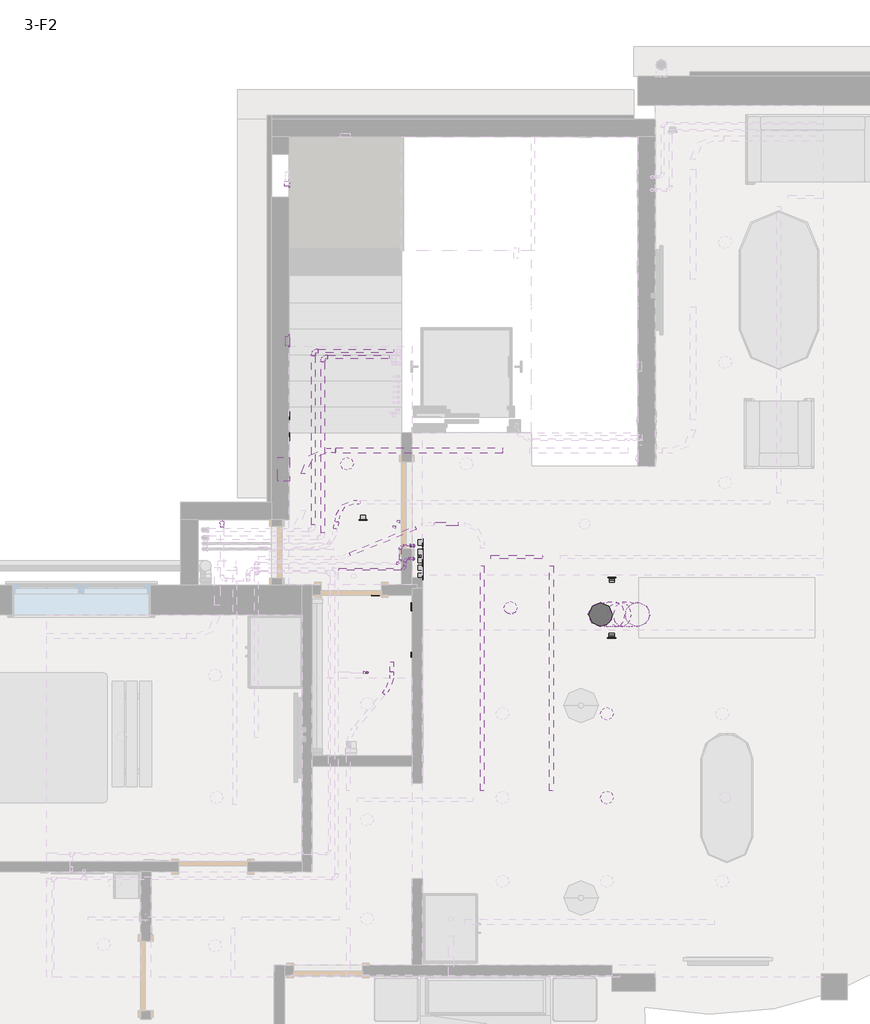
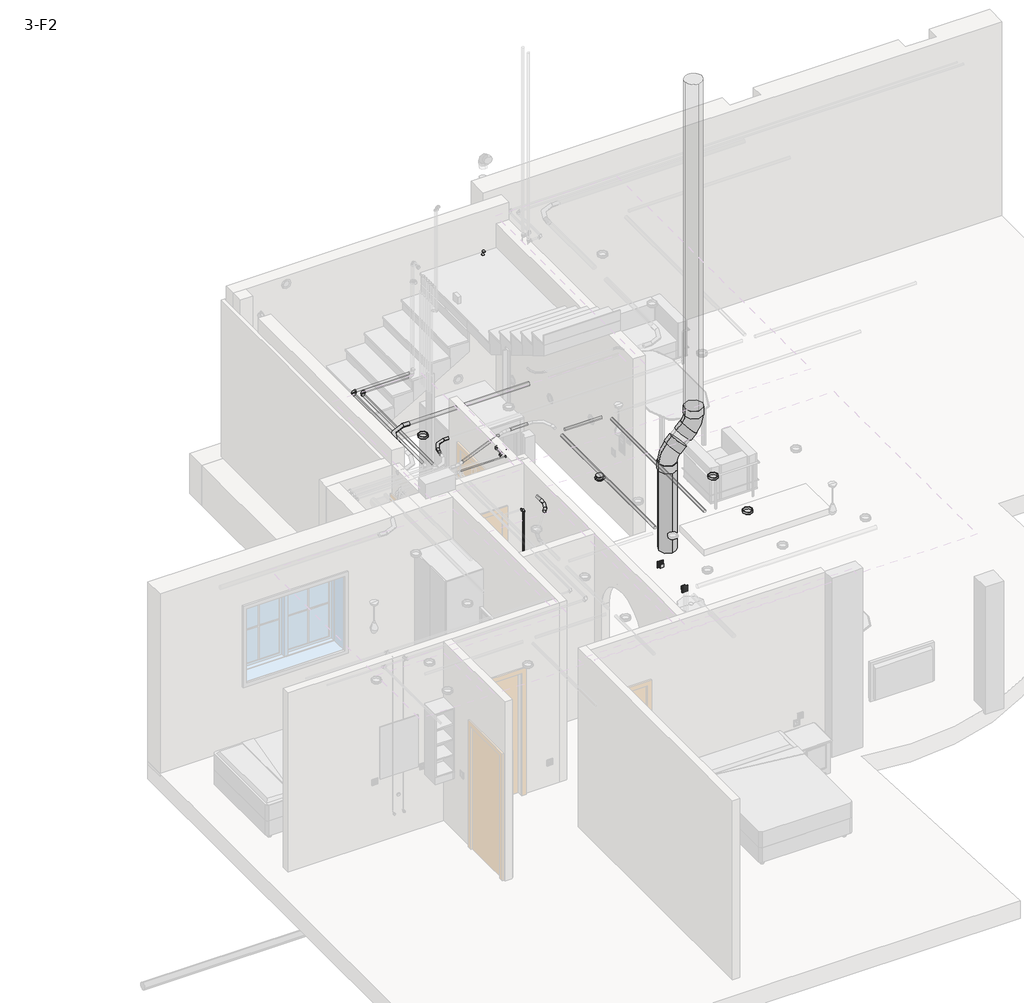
# One storey, part 9 of 12: 18 pipe fittings, 16 pipe segments, 8 cable carrier segments, 8 proxies, 8 switching devices, 5 light fixtures, 3 cable carrier fittings.
"""IFC4 building model written with IfcOpenShell, lengths in millimetres."""

from ifc_helpers import new_model, si_unit, point, frame, frame_2d, origin, place, context, project, spatial, circle_curve, trimmed, segment, composite_curve, outline, extrude, transform, mapped, element, save
from components import distribution_board_24m_2_rows_275x370x140_6ba21ac3, wall_mounted_socket_ups_wall_mounted_socket_ups_4524048d, m_conduit_elbow_aluminum_standard_8a5b7878, m_conduit_elbow_aluminum_standard_c7115e71, m_conduit_elbow_without_fittings_emt_standard_11a9927b, m_downlight_recessed_can_152mm_incandescent_120v_1ee42939, m_recessed_lamp_round_led_e6f06c98, m_bend_pvc_sch_40_dwv_standard_48d77e49, m_bend_pvc_sch_40_dwv_standard_b2b7a502, m_bend_pvc_sch_40_dwv_standard_738aab8b, m_bend_pvc_sch_40_dwv_standard_42e46e6b, m_bend_pvc_sch_40_dwv_standard_88f2c54c, m_elbow_welded_generic_standard_c3fc6815, m_tee_reducing_sanitary_pvc_sch_40_dwv_standard_12be355b, switching_device_8f59fbb7, switching_device_ab05ab5c

model = new_model("IFC4")

# Units and contexts
model_context = context("Model", 3, world=origin())
ifc_project = project(units=[si_unit("LENGTHUNIT", "METRE", prefix="MILLI")], contexts=[model_context])

# Site, building, storey
site = spatial("IfcSite", under=ifc_project)
building = spatial("IfcBuilding", under=site)
storey = spatial("IfcBuildingStorey", under=building, Name="3-F2", Elevation=6550.0)

# Proxies
placement = place(None, origin())
distribution_board_24m_2_rows_275x370x140_shape = distribution_board_24m_2_rows_275x370x140_6ba21ac3(model_context)
element("IfcBuildingElementProxy", 1, Name="Distribution Board : 24M 2 rows 275x370x140", ObjectType="Distribution Board : 24M 2 rows 275x370x140", at=placement, inside=storey, context=model_context, shape_type="MappedRepresentation", body=[
    mapped(distribution_board_24m_2_rows_275x370x140_shape, transform((-4987.4765921, 4664.4560655, 7750.0), x_axis=(0.0, 1.0, 0.0), y_axis=(-1.0, 0.0, 0.0), z_axis=(0.0, 0.0, 1.0))),
])
wall_mounted_socket_ups_wall_mounted_socket_ups_shape = wall_mounted_socket_ups_wall_mounted_socket_ups_4524048d(model_context)
element("IfcBuildingElementProxy", 2, Name="WALL MOUNTED SOCKET : WALL MOUNTED SOCKET", ObjectType="WALL MOUNTED SOCKET : WALL MOUNTED SOCKET", at=placement, inside=storey, context=model_context, shape_type="MappedRepresentation", body=[
    mapped(wall_mounted_socket_ups_wall_mounted_socket_ups_shape, transform((-3317.6151583, 3684.4560655, 7000.0), x_axis=(0.0, 1.0, 0.0), y_axis=(0.0, 0.0, 1.0), z_axis=(1.0, 0.0, 0.0))),
])
element("IfcBuildingElementProxy", 3, Name="WALL MOUNTED SOCKET UPS : WALL MOUNTED SOCKET UPS", ObjectType="WALL MOUNTED SOCKET UPS : WALL MOUNTED SOCKET UPS", at=placement, inside=storey, context=model_context, shape_type="MappedRepresentation", body=[
    mapped(wall_mounted_socket_ups_wall_mounted_socket_ups_shape, transform((-3437.6151583, 3077.6176449, 7700.0), x_axis=(0.0, -1.0, 0.0), y_axis=(0.0, 0.0, 1.0), z_axis=(-1.0, 0.0, 0.0))),
])
element("IfcBuildingElementProxy", 4, Name="WALL MOUNTED SOCKET UPS : WALL MOUNTED SOCKET UPS", ObjectType="WALL MOUNTED SOCKET UPS : WALL MOUNTED SOCKET UPS", at=placement, inside=storey, context=model_context, shape_type="MappedRepresentation", body=[
    mapped(wall_mounted_socket_ups_wall_mounted_socket_ups_shape, transform((-4857.4765921, 5039.4560655, 7000.0), x_axis=(0.0, 1.0, 0.0), y_axis=(0.0, 0.0, 1.0), z_axis=(1.0, 0.0, 0.0))),
])
element("IfcBuildingElementProxy", 5, Name="WALL MOUNTED SOCKET UPS : WALL MOUNTED SOCKET UPS", ObjectType="WALL MOUNTED SOCKET UPS : WALL MOUNTED SOCKET UPS", at=placement, inside=storey, context=model_context, shape_type="MappedRepresentation", body=[
    mapped(wall_mounted_socket_ups_wall_mounted_socket_ups_shape, transform((-1132.1841727, 2722.6176449, 7000.0), x_axis=(1.0, 0.0, 0.0), y_axis=(0.0, 0.0, 1.0), z_axis=(0.0, -1.0, 0.0))),
])
element("IfcBuildingElementProxy", 6, Name="WALL MOUNTED SOCKET UPS : WALL MOUNTED SOCKET UPS", ObjectType="WALL MOUNTED SOCKET UPS : WALL MOUNTED SOCKET UPS", at=placement, inside=storey, context=model_context, shape_type="MappedRepresentation", body=[
    mapped(wall_mounted_socket_ups_wall_mounted_socket_ups_shape, transform((-4857.4765921, 7958.4872449, 8461.5263158), x_axis=(0.0, 1.0, 0.0), y_axis=(0.0, 0.0, 1.0), z_axis=(1.0, 0.0, 0.0))),
])
element("IfcBuildingElementProxy", 7, Name="WALL MOUNTED SOCKET UPS : WALL MOUNTED SOCKET UPS", ObjectType="WALL MOUNTED SOCKET UPS : WALL MOUNTED SOCKET UPS", at=placement, inside=storey, context=model_context, shape_type="MappedRepresentation", body=[
    mapped(wall_mounted_socket_ups_wall_mounted_socket_ups_shape, transform((-1127.4765921, 3412.6176449, 7000.0), x_axis=(-1.0, 0.0, 0.0), y_axis=(0.0, 0.0, 1.0), z_axis=(0.0, 1.0, 0.0))),
])
element("IfcBuildingElementProxy", 8, Name="WALL MOUNTED WATERPROOF SOCKET : WALL MOUNTED WATERPROOF SOCKET", ObjectType="WALL MOUNTED WATERPROOF SOCKET : WALL MOUNTED WATERPROOF SOCKET", at=placement, inside=storey, context=model_context, shape_type="MappedRepresentation", body=[
    mapped(wall_mounted_socket_ups_wall_mounted_socket_ups_shape, transform((-5057.4765921, 7234.4560655, 501.0), x_axis=(0.0, -1.0, 0.0), y_axis=(0.0, 0.0, 1.0), z_axis=(-1.0, 0.0, 0.0))),
])

# Cable carrier fittings
m_conduit_elbow_aluminum_standard_shape = m_conduit_elbow_aluminum_standard_8a5b7878(model_context)
element("IfcCableCarrierFitting", 9, ObjectType="M_Conduit Elbow - Aluminum : Standard", at=placement, inside=storey, context=model_context, shape_type="MappedRepresentation", body=[
    mapped(m_conduit_elbow_aluminum_standard_shape, transform((-4263.4845173, 4284.4560655, 9630.825), x_axis=(-1.0, 0.0, 0.0), y_axis=(0.0, -1.0, 0.0), z_axis=(0.0, 0.0, 1.0))),
])
m_conduit_elbow_aluminum_standard_2_shape = m_conduit_elbow_aluminum_standard_c7115e71(model_context)
element("IfcCableCarrierFitting", 10, ObjectType="M_Conduit Elbow - Aluminum : Standard", at=placement, inside=storey, context=model_context, shape_type="MappedRepresentation", body=[
    mapped(m_conduit_elbow_aluminum_standard_2_shape, transform((-3670.1517983, 2185.3514304, 9630.825), x_axis=(0.6427876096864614, 0.7660444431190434, 0.0), y_axis=(-0.7660444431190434, 0.6427876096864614, 0.0), z_axis=(0.0, 0.0, 1.0))),
])
m_conduit_elbow_without_fittings_emt_standard_shape = m_conduit_elbow_without_fittings_emt_standard_11a9927b(model_context)
element("IfcCableCarrierFitting", 11, ObjectType="M_Conduit Elbow - without Fittings - EMT : Standard", at=placement, inside=storey, context=model_context, shape_type="MappedRepresentation", body=[
    mapped(m_conduit_elbow_without_fittings_emt_standard_shape, transform((-4690.7650264, 4880.3, 9620.0306159), x_axis=(-0.999999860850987, 0.0, 0.0005275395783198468), y_axis=(0.0, -1.0, 0.0), z_axis=(0.0005275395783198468, 0.0, 0.999999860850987))),
])

# Cable carrier segments
element("IfcCableCarrierSegment", 12, ObjectType="Power", at=placement, inside=storey, context=model_context, shape_type="SweptSolid", body=[
    extrude(outline(composite_curve([segment(trimmed(circle_curve(frame_2d((0.0, 30.165)), 30.165), [point((-30.165, 30.165))], [point((0.0, 60.33))], False, "CARTESIAN"), True, "CONTINUOUS"), segment(trimmed(circle_curve(frame_2d((0.0, 30.165)), 30.165), [point((0.0, 60.33))], [point((30.165, 30.165))], False, "CARTESIAN"), True, "CONTINUOUS"), segment(trimmed(circle_curve(frame_2d((0.0, 30.165)), 30.165), [point((30.165, 30.165))], [point((0.0, 0.0))], False, "CARTESIAN"), True, "CONTINUOUS"), segment(trimmed(circle_curve(frame_2d((0.0, 30.165)), 30.165), [point((0.0, 0.0))], [point((-30.165, 30.165))], False, "CARTESIAN"), True, "CONTINUOUS")], self_intersect=False)), frame((-2391.4925054, 4880.3, 9588.6526543), z_axis=(-0.999999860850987, 0.0, 0.0005275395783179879), x_axis=(0.0, -1.0, 0.0)), (0.0, 0.0, 1.0), 1928.4887541),
])
element("IfcCableCarrierSegment", 13, ObjectType="Power", at=placement, inside=storey, context=model_context, shape_type="SweptSolid", body=[
    extrude(outline(composite_curve([segment(trimmed(circle_curve(frame_2d((0.0, 21.08)), 21.08), [point((21.0799999, 21.08))], [point((0.0, 0.0))], False, "CARTESIAN"), True, "CONTINUOUS"), segment(trimmed(circle_curve(frame_2d((0.0, 21.08)), 21.08), [point((0.0, 0.0))], [point((-21.08, 21.08))], False, "CARTESIAN"), True, "CONTINUOUS"), segment(trimmed(circle_curve(frame_2d((0.0, 21.08)), 21.08), [point((-21.08, 21.08))], [point((0.0, 42.16))], False, "CARTESIAN"), True, "CONTINUOUS"), segment(trimmed(circle_curve(frame_2d((0.0, 21.08)), 21.08), [point((0.0, 42.16))], [point((21.0799999, 21.08))], False, "CARTESIAN"), True, "CONTINUOUS")], self_intersect=False)), frame((-4320.6413953, 3977.5467099, 9651.905), z_axis=(0.18308582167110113, 0.9830969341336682, -1.489782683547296e-12), x_axis=(0.9830969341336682, -0.18308582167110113, 0.0)), (0.0, 0.0, 1.0), 82.9649859),
])
element("IfcCableCarrierSegment", 14, ObjectType="Power", at=placement, inside=storey, context=model_context, shape_type="SweptSolid", body=[
    extrude(outline(composite_curve([segment(trimmed(circle_curve(frame_2d((0.0, -21.08)), 21.08), [point((-21.08, -21.08))], [point((0.0, 0.0))], False, "CARTESIAN"), True, "CONTINUOUS"), segment(trimmed(circle_curve(frame_2d((0.0, -21.08)), 21.08), [point((0.0, 0.0))], [point((21.08, -21.08))], False, "CARTESIAN"), True, "CONTINUOUS"), segment(trimmed(circle_curve(frame_2d((0.0, -21.08)), 21.08), [point((21.08, -21.08))], [point((0.0, -42.16))], False, "CARTESIAN"), True, "CONTINUOUS"), segment(trimmed(circle_curve(frame_2d((0.0, -21.08)), 21.08), [point((0.0, -42.16))], [point((-21.08, -21.08))], False, "CARTESIAN"), True, "CONTINUOUS")], self_intersect=False)), frame((-4152.4728872, 3684.0856438, 9609.745), z_axis=(0.9271838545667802, 0.37460659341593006, 0.0), x_axis=(0.37460659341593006, -0.9271838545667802, 0.0)), (0.0, 0.0, 1.0), 817.907908),
])
element("IfcCableCarrierSegment", 15, ObjectType="Power", at=placement, inside=storey, context=model_context, shape_type="SweptSolid", body=[
    extrude(outline(composite_curve([segment(trimmed(circle_curve(frame_2d((3654.4560655, 9630.825)), 21.08), [point((3675.5360655, 9630.825))], [point((3654.4560655, 9609.745))], False, "CARTESIAN"), True, "CONTINUOUS"), segment(trimmed(circle_curve(frame_2d((3654.4560655, 9630.825)), 21.08), [point((3654.4560655, 9609.745))], [point((3633.3760655, 9630.825))], False, "CARTESIAN"), True, "CONTINUOUS"), segment(trimmed(circle_curve(frame_2d((3654.4560655, 9630.825)), 21.08), [point((3633.3760655, 9630.825))], [point((3654.4560655, 9651.905))], False, "CARTESIAN"), True, "CONTINUOUS"), segment(trimmed(circle_curve(frame_2d((3654.4560655, 9630.825)), 21.08), [point((3654.4560655, 9651.905))], [point((3675.5360655, 9630.825))], False, "CARTESIAN"), True, "CONTINUOUS")], self_intersect=False)), frame((-2522.4765921, 0.0, 0.0), z_axis=(1.0, 0.0, 0.0), x_axis=(0.0, 1.0, 0.0)), (0.0, 0.0, 1.0), 590.0),
])
element("IfcCableCarrierSegment", 16, ObjectType="Power", at=placement, inside=storey, context=model_context, shape_type="SweptSolid", body=[
    extrude(outline(composite_curve([segment(trimmed(circle_curve(frame_2d((9630.825, -2627.4765921)), 21.08), [point((9630.825, -2648.5565921))], [point((9609.745, -2627.4765921))], False, "CARTESIAN"), True, "CONTINUOUS"), segment(trimmed(circle_curve(frame_2d((9630.825, -2627.4765921)), 21.08), [point((9609.745, -2627.4765921))], [point((9630.825, -2606.3965921))], False, "CARTESIAN"), True, "CONTINUOUS"), segment(trimmed(circle_curve(frame_2d((9630.825, -2627.4765921)), 21.08), [point((9630.825, -2606.3965921))], [point((9651.905, -2627.4765921))], False, "CARTESIAN"), True, "CONTINUOUS"), segment(trimmed(circle_curve(frame_2d((9630.825, -2627.4765921)), 21.08), [point((9651.905, -2627.4765921))], [point((9630.825, -2648.5565921))], False, "CARTESIAN"), True, "CONTINUOUS")], self_intersect=False)), frame((0.0, 957.6176449, 0.0), z_axis=(0.0, 1.0, 0.0), x_axis=(0.0, 0.0, 1.0)), (0.0, 0.0, 1.0), 2591.8384206),
])
element("IfcCableCarrierSegment", 17, ObjectType="Power", at=placement, inside=storey, context=model_context, shape_type="SweptSolid", body=[
    extrude(outline(composite_curve([segment(trimmed(circle_curve(frame_2d((9630.825, -3670.1517983)), 21.08), [point((9630.825, -3691.2317983))], [point((9609.745, -3670.1517983))], False, "CARTESIAN"), True, "CONTINUOUS"), segment(trimmed(circle_curve(frame_2d((9630.825, -3670.1517983)), 21.08), [point((9609.745, -3670.1517983))], [point((9630.825, -3649.0717983))], False, "CARTESIAN"), True, "CONTINUOUS"), segment(trimmed(circle_curve(frame_2d((9630.825, -3670.1517983)), 21.08), [point((9630.825, -3649.0717983))], [point((9651.905, -3670.1517983))], False, "CARTESIAN"), True, "CONTINUOUS"), segment(trimmed(circle_curve(frame_2d((9630.825, -3670.1517983)), 21.08), [point((9651.905, -3670.1517983))], [point((9630.825, -3691.2317983))], False, "CARTESIAN"), True, "CONTINUOUS")], self_intersect=False)), frame((0.0, 2328.5765491, 0.0), z_axis=(0.0, 1.0, 0.0), x_axis=(0.0, 0.0, 1.0)), (0.0, 0.0, 1.0), 114.634469),
])
element("IfcCableCarrierSegment", 18, ObjectType="Power", at=placement, inside=storey, context=model_context, shape_type="SweptSolid", body=[
    extrude(outline(composite_curve([segment(trimmed(circle_curve(frame_2d((9630.825, -1827.4765921)), 21.08), [point((9630.825, -1848.5565921))], [point((9609.745, -1827.4765921))], False, "CARTESIAN"), True, "CONTINUOUS"), segment(trimmed(circle_curve(frame_2d((9630.825, -1827.4765921)), 21.08), [point((9609.745, -1827.4765921))], [point((9630.825, -1806.3965921))], False, "CARTESIAN"), True, "CONTINUOUS"), segment(trimmed(circle_curve(frame_2d((9630.825, -1827.4765921)), 21.08), [point((9630.825, -1806.3965921))], [point((9651.905, -1827.4765921))], False, "CARTESIAN"), True, "CONTINUOUS"), segment(trimmed(circle_curve(frame_2d((9630.825, -1827.4765921)), 21.08), [point((9651.905, -1827.4765921))], [point((9630.825, -1848.5565921))], False, "CARTESIAN"), True, "CONTINUOUS")], self_intersect=False)), frame((0.0, 957.6176449, 0.0), z_axis=(0.0, 1.0, 0.0), x_axis=(0.0, 0.0, 1.0)), (0.0, 0.0, 1.0), 2591.8384206),
])
element("IfcCableCarrierSegment", 19, ObjectType="Power", at=placement, inside=storey, context=model_context, shape_type="SweptSolid", body=[
    extrude(outline(composite_curve([segment(trimmed(circle_curve(frame_2d((0.0, 21.08)), 21.08), [point((-21.08, 21.08))], [point((0.0, 42.16))], False, "CARTESIAN"), True, "CONTINUOUS"), segment(trimmed(circle_curve(frame_2d((0.0, 21.08)), 21.08), [point((0.0, 42.16))], [point((21.08, 21.08))], False, "CARTESIAN"), True, "CONTINUOUS"), segment(trimmed(circle_curve(frame_2d((0.0, 21.08)), 21.08), [point((21.08, 21.08))], [point((0.0, 0.0))], False, "CARTESIAN"), True, "CONTINUOUS"), segment(trimmed(circle_curve(frame_2d((0.0, 21.08)), 21.08), [point((0.0, 0.0))], [point((-21.08, 21.08))], False, "CARTESIAN"), True, "CONTINUOUS")], self_intersect=False)), frame((-2907.0076808, 4031.9117671, 9609.745), z_axis=(-0.9999988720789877, 0.0015019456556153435, 0.0), x_axis=(-0.0015019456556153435, -0.9999988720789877, 0.0)), (0.0, 0.0, 1.0), 271.002794),
])

# Light fixtures
m_downlight_recessed_can_152mm_incandescent_120v_shape = m_downlight_recessed_can_152mm_incandescent_120v_1ee42939(model_context)
element("IfcLightFixture", 20, ObjectType="M_Downlight - Recessed Can : 203mm Incandescent - 277V", at=placement, inside=storey, context=model_context, shape_type="MappedRepresentation", body=[
    mapped(m_downlight_recessed_can_152mm_incandescent_120v_shape, transform((-4187.5458752, 4726.4560655, 6935.4), x_axis=(1.0, 0.0, 0.0), y_axis=(0.0, 1.0, 0.0), z_axis=(0.0, 0.0, 1.0))),
])
element("IfcLightFixture", 21, ObjectType="M_Downlight - Recessed Can : 203mm Incandescent - 277V", at=placement, inside=storey, context=model_context, shape_type="MappedRepresentation", body=[
    mapped(m_downlight_recessed_can_152mm_incandescent_120v_shape, transform((-1186.4601746, 1844.6820281, 6935.4), x_axis=(-1.0, 0.0, 0.0), y_axis=(0.0, -1.0, 0.0), z_axis=(0.0, 0.0, 1.0))),
])
element("IfcLightFixture", 22, ObjectType="M_Downlight - Recessed Can : 203mm Incandescent - 277V", at=placement, inside=storey, context=model_context, shape_type="MappedRepresentation", body=[
    mapped(m_downlight_recessed_can_152mm_incandescent_120v_shape, transform((-1186.4601746, 877.7272222, 6935.4), x_axis=(-1.0, 0.0, 0.0), y_axis=(0.0, -1.0, 0.0), z_axis=(0.0, 0.0, 1.0))),
])
m_recessed_lamp_round_led_shape = m_recessed_lamp_round_led_e6f06c98(model_context)
element("IfcLightFixture", 23, ObjectType="M_Recessed Lamp - Round - LED : 100mm Trimless Downlight", at=placement, inside=storey, context=model_context, shape_type="MappedRepresentation", body=[
    mapped(m_recessed_lamp_round_led_shape, transform((-2298.7765622, 3067.6176449, 9095.9675499), x_axis=(-0.9950666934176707, 0.0, -0.09920824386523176), y_axis=(0.0, 1.0, 0.0), z_axis=(0.09920824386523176, 0.0, -0.9950666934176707))),
])
element("IfcLightFixture", 24, ObjectType="M_Recessed Lamp - Round - LED : 100mm Trimless Downlight", at=placement, inside=storey, context=model_context, shape_type="MappedRepresentation", body=[
    mapped(m_recessed_lamp_round_led_shape, transform((-4857.4765921, 6146.0955313, 9055.2631579), x_axis=(0.0, 1.0, 0.0), y_axis=(0.0, 0.0, 1.0), z_axis=(1.0, 0.0, 0.0))),
])

# Pipe fittings
m_bend_pvc_sch_40_dwv_standard_shape = m_bend_pvc_sch_40_dwv_standard_48d77e49(model_context)
element("IfcPipeFitting", 25, ObjectType="M_Bend - PVC - Sch 40 - DWV : Standard", at=placement, inside=storey, context=model_context, shape_type="MappedRepresentation", body=[
    mapped(m_bend_pvc_sch_40_dwv_standard_shape, transform((-4466.9732649, 5960.4176655, 9540.0), x_axis=(-1.0, 0.0, 0.0), y_axis=(0.0, -1.0, 0.0), z_axis=(0.0, 0.0, 1.0))),
])
element("IfcPipeFitting", 26, ObjectType="M_Bend - PVC - Sch 40 - DWV : Standard", at=placement, inside=storey, context=model_context, shape_type="MappedRepresentation", body=[
    mapped(m_bend_pvc_sch_40_dwv_standard_shape, transform((-4574.9732649, 6030.198704, 9540.0), x_axis=(-1.0, 0.0, 0.0), y_axis=(0.0, -1.0, 0.0), z_axis=(0.0, 0.0, 1.0))),
])
m_bend_pvc_sch_40_dwv_standard_2_shape = m_bend_pvc_sch_40_dwv_standard_b2b7a502(model_context)
element("IfcPipeFitting", 27, ObjectType="M_Bend - PVC - Sch 40 - DWV : Standard", at=placement, inside=storey, context=model_context, shape_type="MappedRepresentation", body=[
    mapped(m_bend_pvc_sch_40_dwv_standard_2_shape, transform((-1259.0399056, 2989.1508987, 9178.9978908), x_axis=(0.0, 0.0, 1.0), y_axis=(1.0, 0.0, 0.0), z_axis=(0.0, 1.0, 0.0))),
])
element("IfcPipeFitting", 28, ObjectType="M_Bend - PVC - Sch 40 - DWV : Standard", at=placement, inside=storey, context=model_context, shape_type="MappedRepresentation", body=[
    mapped(m_bend_pvc_sch_40_dwv_standard_2_shape, transform((-834.7758369, 2989.1508987, 9603.2619595), x_axis=(0.7071067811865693, 0.0, 0.7071067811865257), y_axis=(-0.7071067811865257, 0.0, 0.7071067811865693), z_axis=(0.0, -1.0, 0.0))),
])
m_bend_pvc_sch_40_dwv_standard_3_shape = m_bend_pvc_sch_40_dwv_standard_738aab8b(model_context)
element("IfcPipeFitting", 29, ObjectType="M_Bend - PVC - Sch 40 - DWV : Standard", at=placement, inside=storey, context=model_context, shape_type="MappedRepresentation", body=[
    mapped(m_bend_pvc_sch_40_dwv_standard_3_shape, transform((-3387.6124947, 2524.4615522, 7301.5458331), x_axis=(1.0, 0.0, 0.0), y_axis=(0.0, 0.0, -1.0), z_axis=(0.0, 1.0, 0.0))),
])
m_bend_pvc_sch_40_dwv_standard_4_shape = m_bend_pvc_sch_40_dwv_standard_42e46e6b(model_context)
element("IfcPipeFitting", 30, ObjectType="M_Bend - PVC - Sch 40 - DWV : Standard", at=placement, inside=storey, context=model_context, shape_type="MappedRepresentation", body=[
    mapped(m_bend_pvc_sch_40_dwv_standard_4_shape, transform((-3954.5706461, 2320.1275048, 9590.0), x_axis=(1.0, 0.0, 0.0), y_axis=(0.0, 0.0, -1.0), z_axis=(0.0, 1.0, 0.0))),
])
element("IfcPipeFitting", 31, ObjectType="M_Bend - PVC - Sch 40 - DWV : Standard", at=placement, inside=storey, context=model_context, shape_type="MappedRepresentation", body=[
    mapped(m_bend_pvc_sch_40_dwv_standard_4_shape, transform((-3572.4765921, 3580.1275048, 9620.0), x_axis=(1.0, 0.0, 0.0), y_axis=(0.0, 1.0, 0.0), z_axis=(0.0, 0.0, 1.0))),
])
element("IfcPipeFitting", 32, ObjectType="M_Bend - PVC - Sch 40 - DWV : Standard", at=placement, inside=storey, context=model_context, shape_type="MappedRepresentation", body=[
    mapped(m_bend_pvc_sch_40_dwv_standard_4_shape, transform((-3572.4765921, 3784.4560655, 9620.0), x_axis=(-1.0, 0.0, 0.0), y_axis=(0.0, -1.0, 0.0), z_axis=(0.0, 0.0, 1.0))),
])
element("IfcPipeFitting", 33, ObjectType="M_Bend - PVC - Sch 40 - DWV : Standard", at=placement, inside=storey, context=model_context, shape_type="MappedRepresentation", body=[
    mapped(m_bend_pvc_sch_40_dwv_standard_4_shape, transform((-3517.0942696, 3513.0776886, 9620.0), x_axis=(1.0, 0.0, 0.0), y_axis=(0.0, 1.0, 0.0), z_axis=(0.0, 0.0, 1.0))),
])
element("IfcPipeFitting", 34, ObjectType="M_Bend - PVC - Sch 40 - DWV : Standard", at=placement, inside=storey, context=model_context, shape_type="MappedRepresentation", body=[
    mapped(m_bend_pvc_sch_40_dwv_standard_4_shape, transform((-3517.0942696, 3634.4560655, 9620.0), x_axis=(-1.0, 0.0, 0.0), y_axis=(0.0, -1.0, 0.0), z_axis=(0.0, 0.0, 1.0))),
])
element("IfcPipeFitting", 35, ObjectType="M_Bend - PVC - Sch 40 - DWV : Standard", at=placement, inside=storey, context=model_context, shape_type="MappedRepresentation", body=[
    mapped(m_bend_pvc_sch_40_dwv_standard_4_shape, transform((-3419.7698316, 3784.4560655, 9620.0), x_axis=(1.0, 0.0, 0.0), y_axis=(0.0, 0.0, -1.0), z_axis=(0.0, 1.0, 0.0))),
])
element("IfcPipeFitting", 36, ObjectType="M_Bend - PVC - Sch 40 - DWV : Standard", at=placement, inside=storey, context=model_context, shape_type="MappedRepresentation", body=[
    mapped(m_bend_pvc_sch_40_dwv_standard_4_shape, transform((-3419.7698316, 3784.4560655, 7000.0), x_axis=(0.0, 0.0, -1.0), y_axis=(-1.0, 0.0, 0.0), z_axis=(0.0, 1.0, 0.0))),
])
element("IfcPipeFitting", 37, ObjectType="M_Bend - PVC - Sch 40 - DWV : Standard", at=placement, inside=storey, context=model_context, shape_type="MappedRepresentation", body=[
    mapped(m_bend_pvc_sch_40_dwv_standard_4_shape, transform((-3422.0942696, 3634.4560655, 9620.0), x_axis=(1.0, 0.0, 0.0), y_axis=(0.0, 0.0, -1.0), z_axis=(0.0, 1.0, 0.0))),
])
element("IfcPipeFitting", 38, ObjectType="M_Bend - PVC - Sch 40 - DWV : Standard", at=placement, inside=storey, context=model_context, shape_type="MappedRepresentation", body=[
    mapped(m_bend_pvc_sch_40_dwv_standard_4_shape, transform((-3422.0942696, 3634.4560655, 7000.0), x_axis=(0.0, 0.0, -1.0), y_axis=(-1.0, 0.0, 0.0), z_axis=(0.0, 1.0, 0.0))),
])
m_bend_pvc_sch_40_dwv_standard_5_shape = m_bend_pvc_sch_40_dwv_standard_88f2c54c(model_context)
element("IfcPipeFitting", 39, ObjectType="M_Bend - PVC - Sch 40 - DWV : Standard", at=placement, inside=storey, context=model_context, shape_type="MappedRepresentation", body=[
    mapped(m_bend_pvc_sch_40_dwv_standard_5_shape, transform((-3387.6094433, 2524.4678133, 6738.9851809), x_axis=(6.094819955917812e-06, 1.2505625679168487e-05, -0.9999999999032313), y_axis=(7.621953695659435e-11, -0.9999999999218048, -1.2505625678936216e-05), z_axis=(-0.9999999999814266, 0.0, -6.0948199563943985e-06))),
])
m_elbow_welded_generic_standard_shape = m_elbow_welded_generic_standard_c3fc6815(model_context)
element("IfcPipeFitting", 40, ObjectType="M_Elbow - Welded - Generic : Standard", at=placement, inside=storey, context=model_context, shape_type="MappedRepresentation", body=[
    mapped(m_elbow_welded_generic_standard_shape, transform((-3597.3872699, 4055.8712523, 12790.0), x_axis=(0.0, -1.0, 0.0), y_axis=(1.0, 0.0, 0.0), z_axis=(0.0, 0.0, 1.0))),
])
element("IfcPipeFitting", 41, ObjectType="M_Elbow - Welded - Generic : Standard", at=placement, inside=storey, context=model_context, shape_type="MappedRepresentation", body=[
    mapped(m_elbow_welded_generic_standard_shape, transform((-3645.3299886, 3995.4613499, 12790.0), x_axis=(0.0, -1.0, 0.0), y_axis=(1.0, 0.0, 0.0), z_axis=(0.0, 0.0, 1.0))),
])
m_tee_reducing_sanitary_pvc_sch_40_dwv_standard_shape = m_tee_reducing_sanitary_pvc_sch_40_dwv_standard_12be355b(model_context)
element("IfcPipeFitting", 42, ObjectType="M_Tee Reducing Sanitary - PVC - Sch 40 - DWV : Standard", at=placement, inside=storey, context=model_context, shape_type="MappedRepresentation", body=[
    mapped(m_tee_reducing_sanitary_pvc_sch_40_dwv_standard_shape, transform((-5629.7712314, 4046.0055479, 8050.0), x_axis=(-1.9884223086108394e-07, 0.0, -0.9999999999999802), y_axis=(0.0, 1.0, 0.0), z_axis=(0.9999999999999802, 0.0, -1.9884223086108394e-07))),
])

# Pipe segments
element("IfcPipeSegment", 43, ObjectType="PVC - DWV", at=placement, inside=storey, context=model_context, shape_type="SweptSolid", body=[
    extrude(outline(composite_curve([segment(trimmed(circle_curve(frame_2d((-1259.0399056, 2989.1508987)), 136.525), [point((-1122.5149056, 2989.1508987))], [point((-1259.0399056, 2852.6258987))], False, "CARTESIAN"), True, "CONTINUOUS"), segment(trimmed(circle_curve(frame_2d((-1259.0399056, 2989.1508987)), 136.525), [point((-1259.0399056, 2852.6258987))], [point((-1395.5649056, 2989.1508987))], False, "CARTESIAN"), True, "CONTINUOUS"), segment(trimmed(circle_curve(frame_2d((-1259.0399056, 2989.1508987)), 136.525), [point((-1395.5649056, 2989.1508987))], [point((-1259.0399056, 3125.6758987))], False, "CARTESIAN"), True, "CONTINUOUS"), segment(trimmed(circle_curve(frame_2d((-1259.0399056, 2989.1508987)), 136.525), [point((-1259.0399056, 3125.6758987))], [point((-1122.5149056, 2989.1508987))], False, "CARTESIAN"), True, "CONTINUOUS")], self_intersect=False)), frame((0.0, 0.0, 7578.9978908), z_axis=(0.0, 0.0, 1.0), x_axis=(1.0, 0.0, 0.0)), (0.0, 0.0, 1.0), 1354.3078125),
])
element("IfcPipeSegment", 44, ObjectType="PVC - DWV", at=placement, inside=storey, context=model_context, shape_type="SweptSolid", body=[
    extrude(outline(composite_curve([segment(trimmed(circle_curve(frame_2d((0.0, 136.525)), 136.525), [point((0.0, 0.0))], [point((-136.525, 136.525))], False, "CARTESIAN"), True, "CONTINUOUS"), segment(trimmed(circle_curve(frame_2d((0.0, 136.525)), 136.525), [point((-136.525, 136.525))], [point((0.0, 273.05))], False, "CARTESIAN"), True, "CONTINUOUS"), segment(trimmed(circle_curve(frame_2d((0.0, 136.525)), 136.525), [point((0.0, 273.05))], [point((136.525, 136.525))], False, "CARTESIAN"), True, "CONTINUOUS"), segment(trimmed(circle_curve(frame_2d((0.0, 136.525)), 136.525), [point((136.525, 136.525))], [point((0.0, 0.0))], False, "CARTESIAN"), True, "CONTINUOUS")], self_intersect=False)), frame((-1085.3092937, 2852.6258987, 9352.7285026), z_axis=(0.7071067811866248, 0.0, 0.7071067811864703), x_axis=(0.7071067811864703, 0.0, -0.7071067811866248)), (0.0, 0.0, 1.0), 108.615625),
])
element("IfcPipeSegment", 45, ObjectType="PVC - DWV", at=placement, inside=storey, context=model_context, shape_type="SweptSolid", body=[
    extrude(outline(composite_curve([segment(trimmed(circle_curve(frame_2d((-834.7758369, 2989.1508987)), 136.525), [point((-971.3008369, 2989.1508987))], [point((-834.7758369, 3125.6758987))], False, "CARTESIAN"), True, "CONTINUOUS"), segment(trimmed(circle_curve(frame_2d((-834.7758369, 2989.1508987)), 136.525), [point((-834.7758369, 3125.6758987))], [point((-698.2508369, 2989.1508987))], False, "CARTESIAN"), True, "CONTINUOUS"), segment(trimmed(circle_curve(frame_2d((-834.7758369, 2989.1508987)), 136.525), [point((-698.2508369, 2989.1508987))], [point((-834.7758369, 2852.6258987))], False, "CARTESIAN"), True, "CONTINUOUS"), segment(trimmed(circle_curve(frame_2d((-834.7758369, 2989.1508987)), 136.525), [point((-834.7758369, 2852.6258987))], [point((-971.3008369, 2989.1508987))], False, "CARTESIAN"), True, "CONTINUOUS")], self_intersect=False)), frame((0.0, 0.0, 9848.954147), z_axis=(0.0, 0.0, 1.0), x_axis=(1.0, 0.0, 0.0)), (0.0, 0.0, 1.0), 5554.3078125),
])
element("IfcPipeSegment", 46, ObjectType="PVC - DWV", at=placement, inside=storey, context=model_context, shape_type="SweptSolid", body=[
    extrude(outline(composite_curve([segment(trimmed(circle_curve(frame_2d((0.0, 24.13)), 24.13), [point((-24.13, 24.13))], [point((0.0, 48.26))], False, "CARTESIAN"), True, "CONTINUOUS"), segment(trimmed(circle_curve(frame_2d((0.0, 24.13)), 24.13), [point((0.0, 48.26))], [point((24.13, 24.13))], False, "CARTESIAN"), True, "CONTINUOUS"), segment(trimmed(circle_curve(frame_2d((0.0, 24.13)), 24.13), [point((24.13, 24.13))], [point((0.0, 0.0))], False, "CARTESIAN"), True, "CONTINUOUS"), segment(trimmed(circle_curve(frame_2d((0.0, 24.13)), 24.13), [point((0.0, 0.0))], [point((-24.13, 24.13))], False, "CARTESIAN"), True, "CONTINUOUS")], self_intersect=False)), frame((-3387.6098205, 2500.3370392, 6800.8846791), z_axis=(-6.094819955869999e-06, -1.2505625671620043e-05, 0.9999999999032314), x_axis=(0.9999999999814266, -7.621991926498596e-11, 6.094819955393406e-06)), (0.0, 0.0, 1.0), 438.7610522),
])
element("IfcPipeSegment", 47, ObjectType="PVC - DWV", at=placement, inside=storey, context=model_context, shape_type="SweptSolid", body=[
    extrude(outline(composite_curve([segment(trimmed(circle_curve(frame_2d((3513.0776886, 9620.0)), 10.668), [point((3502.4096886, 9620.0))], [point((3513.0776886, 9630.668))], False, "CARTESIAN"), True, "CONTINUOUS"), segment(trimmed(circle_curve(frame_2d((3513.0776886, 9620.0)), 10.668), [point((3513.0776886, 9630.668))], [point((3523.7456886, 9620.0))], False, "CARTESIAN"), True, "CONTINUOUS"), segment(trimmed(circle_curve(frame_2d((3513.0776886, 9620.0)), 10.668), [point((3523.7456886, 9620.0))], [point((3513.0776886, 9609.332))], False, "CARTESIAN"), True, "CONTINUOUS"), segment(trimmed(circle_curve(frame_2d((3513.0776886, 9620.0)), 10.668), [point((3513.0776886, 9609.332))], [point((3502.4096886, 9620.0))], False, "CARTESIAN"), True, "CONTINUOUS")], self_intersect=False)), frame((-4280.1541964, 0.0, 0.0), z_axis=(1.0, 0.0, 0.0), x_axis=(0.0, 1.0, 0.0)), (0.0, 0.0, 1.0), 722.0458643),
])
element("IfcPipeSegment", 48, ObjectType="PVC - DWV", at=placement, inside=storey, context=model_context, shape_type="SweptSolid", body=[
    extrude(outline(composite_curve([segment(trimmed(circle_curve(frame_2d((-3954.5706461, 2320.1275048)), 10.668), [point((-3965.2386461, 2320.1275048))], [point((-3954.5706461, 2330.7955048))], False, "CARTESIAN"), True, "CONTINUOUS"), segment(trimmed(circle_curve(frame_2d((-3954.5706461, 2320.1275048)), 10.668), [point((-3954.5706461, 2330.7955048))], [point((-3943.9026461, 2320.1275048))], False, "CARTESIAN"), True, "CONTINUOUS"), segment(trimmed(circle_curve(frame_2d((-3954.5706461, 2320.1275048)), 10.668), [point((-3943.9026461, 2320.1275048))], [point((-3954.5706461, 2309.4595048))], False, "CARTESIAN"), True, "CONTINUOUS"), segment(trimmed(circle_curve(frame_2d((-3954.5706461, 2320.1275048)), 10.668), [point((-3954.5706461, 2309.4595048))], [point((-3965.2386461, 2320.1275048))], False, "CARTESIAN"), True, "CONTINUOUS")], self_intersect=False)), frame((0.0, 0.0, 6739.0), z_axis=(0.0, 0.0, 1.0), x_axis=(1.0, 0.0, 0.0)), (0.0, 0.0, 1.0), 2809.9859375),
])
element("IfcPipeSegment", 49, ObjectType="PVC - DWV", at=placement, inside=storey, context=model_context, shape_type="SweptSolid", body=[
    extrude(outline(composite_curve([segment(trimmed(circle_curve(frame_2d((9620.0, -3572.4765921)), 10.668), [point((9620.0, -3561.8085921))], [point((9630.668, -3572.4765921))], False, "CARTESIAN"), True, "CONTINUOUS"), segment(trimmed(circle_curve(frame_2d((9620.0, -3572.4765921)), 10.668), [point((9630.668, -3572.4765921))], [point((9620.0, -3583.1445921))], False, "CARTESIAN"), True, "CONTINUOUS"), segment(trimmed(circle_curve(frame_2d((9620.0, -3572.4765921)), 10.668), [point((9620.0, -3583.1445921))], [point((9609.332, -3572.4765921))], False, "CARTESIAN"), True, "CONTINUOUS"), segment(trimmed(circle_curve(frame_2d((9620.0, -3572.4765921)), 10.668), [point((9609.332, -3572.4765921))], [point((9620.0, -3561.8085921))], False, "CARTESIAN"), True, "CONTINUOUS")], self_intersect=False)), frame((0.0, 3621.1415673, 0.0), z_axis=(0.0, 1.0, 0.0), x_axis=(0.0, 0.0, 1.0)), (0.0, 0.0, 1.0), 122.3004356),
])
element("IfcPipeSegment", 50, ObjectType="PVC - DWV", at=placement, inside=storey, context=model_context, shape_type="SweptSolid", body=[
    extrude(outline(composite_curve([segment(trimmed(circle_curve(frame_2d((3784.4560655, 9620.0)), 10.668), [point((3773.7880655, 9620.0))], [point((3784.4560655, 9630.668))], False, "CARTESIAN"), True, "CONTINUOUS"), segment(trimmed(circle_curve(frame_2d((3784.4560655, 9620.0)), 10.668), [point((3784.4560655, 9630.668))], [point((3795.1240655, 9620.0))], False, "CARTESIAN"), True, "CONTINUOUS"), segment(trimmed(circle_curve(frame_2d((3784.4560655, 9620.0)), 10.668), [point((3795.1240655, 9620.0))], [point((3784.4560655, 9609.332))], False, "CARTESIAN"), True, "CONTINUOUS"), segment(trimmed(circle_curve(frame_2d((3784.4560655, 9620.0)), 10.668), [point((3784.4560655, 9609.332))], [point((3773.7880655, 9620.0))], False, "CARTESIAN"), True, "CONTINUOUS")], self_intersect=False)), frame((-3531.4625296, 0.0, 0.0), z_axis=(1.0, 0.0, 0.0), x_axis=(0.0, 1.0, 0.0)), (0.0, 0.0, 1.0), 70.6786355),
])
element("IfcPipeSegment", 51, ObjectType="PVC - DWV", at=placement, inside=storey, context=model_context, shape_type="SweptSolid", body=[
    extrude(outline(composite_curve([segment(trimmed(circle_curve(frame_2d((9620.0, -3517.0942696)), 10.668), [point((9620.0, -3506.4262696))], [point((9630.668, -3517.0942696))], False, "CARTESIAN"), True, "CONTINUOUS"), segment(trimmed(circle_curve(frame_2d((9620.0, -3517.0942696)), 10.668), [point((9630.668, -3517.0942696))], [point((9620.0, -3527.7622696))], False, "CARTESIAN"), True, "CONTINUOUS"), segment(trimmed(circle_curve(frame_2d((9620.0, -3517.0942696)), 10.668), [point((9620.0, -3527.7622696))], [point((9609.332, -3517.0942696))], False, "CARTESIAN"), True, "CONTINUOUS"), segment(trimmed(circle_curve(frame_2d((9620.0, -3517.0942696)), 10.668), [point((9609.332, -3517.0942696))], [point((9620.0, -3506.4262696))], False, "CARTESIAN"), True, "CONTINUOUS")], self_intersect=False)), frame((0.0, 3554.0917511, 0.0), z_axis=(0.0, 1.0, 0.0), x_axis=(0.0, 0.0, 1.0)), (0.0, 0.0, 1.0), 39.3502518),
])
element("IfcPipeSegment", 52, ObjectType="PVC - DWV", at=placement, inside=storey, context=model_context, shape_type="SweptSolid", body=[
    extrude(outline(composite_curve([segment(trimmed(circle_curve(frame_2d((3634.4560655, 9620.0)), 10.668), [point((3623.7880655, 9620.0))], [point((3634.4560655, 9630.668))], False, "CARTESIAN"), True, "CONTINUOUS"), segment(trimmed(circle_curve(frame_2d((3634.4560655, 9620.0)), 10.668), [point((3634.4560655, 9630.668))], [point((3645.1240655, 9620.0))], False, "CARTESIAN"), True, "CONTINUOUS"), segment(trimmed(circle_curve(frame_2d((3634.4560655, 9620.0)), 10.668), [point((3645.1240655, 9620.0))], [point((3634.4560655, 9609.332))], False, "CARTESIAN"), True, "CONTINUOUS"), segment(trimmed(circle_curve(frame_2d((3634.4560655, 9620.0)), 10.668), [point((3634.4560655, 9609.332))], [point((3623.7880655, 9620.0))], False, "CARTESIAN"), True, "CONTINUOUS")], self_intersect=False)), frame((-3476.0802071, 0.0, 0.0), z_axis=(1.0, 0.0, 0.0), x_axis=(0.0, 1.0, 0.0)), (0.0, 0.0, 1.0), 12.971875),
])
element("IfcPipeSegment", 53, ObjectType="PVC - DWV", at=placement, inside=storey, context=model_context, shape_type="SweptSolid", body=[
    extrude(outline(composite_curve([segment(trimmed(circle_curve(frame_2d((-3419.7698316, 3784.4560655)), 10.668), [point((-3409.1018316, 3784.4560655))], [point((-3419.7698316, 3773.7880655))], False, "CARTESIAN"), True, "CONTINUOUS"), segment(trimmed(circle_curve(frame_2d((-3419.7698316, 3784.4560655)), 10.668), [point((-3419.7698316, 3773.7880655))], [point((-3430.4378316, 3784.4560655))], False, "CARTESIAN"), True, "CONTINUOUS"), segment(trimmed(circle_curve(frame_2d((-3419.7698316, 3784.4560655)), 10.668), [point((-3430.4378316, 3784.4560655))], [point((-3419.7698316, 3795.1240655))], False, "CARTESIAN"), True, "CONTINUOUS"), segment(trimmed(circle_curve(frame_2d((-3419.7698316, 3784.4560655)), 10.668), [point((-3419.7698316, 3795.1240655))], [point((-3409.1018316, 3784.4560655))], False, "CARTESIAN"), True, "CONTINUOUS")], self_intersect=False)), frame((0.0, 0.0, 7041.0140625), z_axis=(0.0, 0.0, 1.0), x_axis=(1.0, 0.0, 0.0)), (0.0, 0.0, 1.0), 2537.971875),
])
element("IfcPipeSegment", 54, ObjectType="PVC - DWV", at=placement, inside=storey, context=model_context, shape_type="SweptSolid", body=[
    extrude(outline(composite_curve([segment(trimmed(circle_curve(frame_2d((-3422.0942696, 3634.4560655)), 10.668), [point((-3411.4262696, 3634.4560655))], [point((-3422.0942696, 3623.7880655))], False, "CARTESIAN"), True, "CONTINUOUS"), segment(trimmed(circle_curve(frame_2d((-3422.0942696, 3634.4560655)), 10.668), [point((-3422.0942696, 3623.7880655))], [point((-3432.7622696, 3634.4560655))], False, "CARTESIAN"), True, "CONTINUOUS"), segment(trimmed(circle_curve(frame_2d((-3422.0942696, 3634.4560655)), 10.668), [point((-3432.7622696, 3634.4560655))], [point((-3422.0942696, 3645.1240655))], False, "CARTESIAN"), True, "CONTINUOUS"), segment(trimmed(circle_curve(frame_2d((-3422.0942696, 3634.4560655)), 10.668), [point((-3422.0942696, 3645.1240655))], [point((-3411.4262696, 3634.4560655))], False, "CARTESIAN"), True, "CONTINUOUS")], self_intersect=False)), frame((0.0, 0.0, 7041.0140625), z_axis=(0.0, 0.0, 1.0), x_axis=(1.0, 0.0, 0.0)), (0.0, 0.0, 1.0), 2537.971875),
])
element("IfcPipeSegment", 55, ObjectType="PVC - DWV", at=placement, inside=storey, context=model_context, shape_type="SweptSolid", body=[
    extrude(outline(composite_curve([segment(trimmed(circle_curve(frame_2d((5960.4176655, 9540.0)), 21.082), [point((5981.4996655, 9540.0))], [point((5960.4176655, 9518.918))], False, "CARTESIAN"), True, "CONTINUOUS"), segment(trimmed(circle_curve(frame_2d((5960.4176655, 9540.0)), 21.082), [point((5960.4176655, 9518.918))], [point((5939.3356655, 9540.0))], False, "CARTESIAN"), True, "CONTINUOUS"), segment(trimmed(circle_curve(frame_2d((5960.4176655, 9540.0)), 21.082), [point((5939.3356655, 9540.0))], [point((5960.4176655, 9561.082))], False, "CARTESIAN"), True, "CONTINUOUS"), segment(trimmed(circle_curve(frame_2d((5960.4176655, 9540.0)), 21.082), [point((5960.4176655, 9561.082))], [point((5981.4996655, 9540.0))], False, "CARTESIAN"), True, "CONTINUOUS")], self_intersect=False)), frame((-4409.8232649, 0.0, 0.0), z_axis=(1.0, 0.0, 0.0), x_axis=(0.0, 1.0, 0.0)), (0.0, 0.0, 1.0), 705.7),
])
element("IfcPipeSegment", 56, ObjectType="PVC - DWV", at=placement, inside=storey, context=model_context, shape_type="SweptSolid", body=[
    extrude(outline(composite_curve([segment(trimmed(circle_curve(frame_2d((9540.0, -4466.9732649)), 21.082), [point((9540.0, -4488.0552649))], [point((9518.918, -4466.9732649))], False, "CARTESIAN"), True, "CONTINUOUS"), segment(trimmed(circle_curve(frame_2d((9540.0, -4466.9732649)), 21.082), [point((9518.918, -4466.9732649))], [point((9540.0, -4445.8912649))], False, "CARTESIAN"), True, "CONTINUOUS"), segment(trimmed(circle_curve(frame_2d((9540.0, -4466.9732649)), 21.082), [point((9540.0, -4445.8912649))], [point((9561.082, -4466.9732649))], False, "CARTESIAN"), True, "CONTINUOUS"), segment(trimmed(circle_curve(frame_2d((9540.0, -4466.9732649)), 21.082), [point((9561.082, -4466.9732649))], [point((9540.0, -4488.0552649))], False, "CARTESIAN"), True, "CONTINUOUS")], self_intersect=False)), frame((0.0, 3932.5676655, 0.0), z_axis=(0.0, 1.0, 0.0), x_axis=(0.0, 0.0, 1.0)), (0.0, 0.0, 1.0), 1970.7),
])
element("IfcPipeSegment", 57, ObjectType="PVC - DWV", at=placement, inside=storey, context=model_context, shape_type="SweptSolid", body=[
    extrude(outline(composite_curve([segment(trimmed(circle_curve(frame_2d((6030.198704, 9540.0)), 21.082), [point((6051.280704, 9540.0))], [point((6030.198704, 9518.918))], False, "CARTESIAN"), True, "CONTINUOUS"), segment(trimmed(circle_curve(frame_2d((6030.198704, 9540.0)), 21.082), [point((6030.198704, 9518.918))], [point((6009.116704, 9540.0))], False, "CARTESIAN"), True, "CONTINUOUS"), segment(trimmed(circle_curve(frame_2d((6030.198704, 9540.0)), 21.082), [point((6009.116704, 9540.0))], [point((6030.198704, 9561.082))], False, "CARTESIAN"), True, "CONTINUOUS"), segment(trimmed(circle_curve(frame_2d((6030.198704, 9540.0)), 21.082), [point((6030.198704, 9561.082))], [point((6051.280704, 9540.0))], False, "CARTESIAN"), True, "CONTINUOUS")], self_intersect=False)), frame((-4517.8232649, 0.0, 0.0), z_axis=(1.0, 0.0, 0.0), x_axis=(0.0, 1.0, 0.0)), (0.0, 0.0, 1.0), 865.7),
])
element("IfcPipeSegment", 58, ObjectType="PVC - DWV", at=placement, inside=storey, context=model_context, shape_type="SweptSolid", body=[
    extrude(outline(composite_curve([segment(trimmed(circle_curve(frame_2d((9540.0, -4574.9732649)), 21.082), [point((9540.0, -4596.0552649))], [point((9518.918, -4574.9732649))], False, "CARTESIAN"), True, "CONTINUOUS"), segment(trimmed(circle_curve(frame_2d((9540.0, -4574.9732649)), 21.082), [point((9518.918, -4574.9732649))], [point((9540.0, -4553.8912649))], False, "CARTESIAN"), True, "CONTINUOUS"), segment(trimmed(circle_curve(frame_2d((9540.0, -4574.9732649)), 21.082), [point((9540.0, -4553.8912649))], [point((9561.082, -4574.9732649))], False, "CARTESIAN"), True, "CONTINUOUS"), segment(trimmed(circle_curve(frame_2d((9540.0, -4574.9732649)), 21.082), [point((9561.082, -4574.9732649))], [point((9540.0, -4596.0552649))], False, "CARTESIAN"), True, "CONTINUOUS")], self_intersect=False)), frame((0.0, 4022.5676655, 0.0), z_axis=(0.0, 1.0, 0.0), x_axis=(0.0, 0.0, 1.0)), (0.0, 0.0, 1.0), 1950.4810386),
])

# Switching devices
switching_device_shape = switching_device_8f59fbb7(model_context)
element("IfcSwitchingDevice", 59, ObjectType="TWO WAY ONE GANG LIGHTING SWICH : TWO WAY ONE GANG LIGHTING SWICH", at=placement, inside=storey, context=model_context, shape_type="MappedRepresentation", body=[
    mapped(switching_device_shape, transform((-4857.4765921, 5284.4560655, 7700.0), x_axis=(0.0, 1.0, 0.0), y_axis=(0.0, 0.0, 1.0), z_axis=(1.0, 0.0, 0.0))),
])
element("IfcSwitchingDevice", 60, ObjectType="TWO WAY ONE GANG LIGHTING SWICH : TWO WAY ONE GANG LIGHTING SWICH", at=placement, inside=storey, context=model_context, shape_type="MappedRepresentation", body=[
    mapped(switching_device_shape, transform((-3317.6151583, 3614.4560655, 7700.0), x_axis=(0.0, 1.0, 0.0), y_axis=(0.0, 0.0, 1.0), z_axis=(1.0, 0.0, 0.0))),
])
element("IfcSwitchingDevice", 61, ObjectType="TWO WAY ONE GANG LIGHTING SWICH : TWO WAY ONE GANG LIGHTING SWICH", at=placement, inside=storey, context=model_context, shape_type="MappedRepresentation", body=[
    mapped(switching_device_shape, transform((-3317.6151583, 3709.6560655, 7700.0), x_axis=(0.0, 1.0, 0.0), y_axis=(0.0, 0.0, 1.0), z_axis=(1.0, 0.0, 0.0))),
])
element("IfcSwitchingDevice", 62, ObjectType="TWO WAY ONE GANG LIGHTING SWICH : TWO WAY ONE GANG LIGHTING SWICH", at=placement, inside=storey, context=model_context, shape_type="MappedRepresentation", body=[
    mapped(switching_device_shape, transform((-3317.6151583, 3529.6560655, 7700.0), x_axis=(0.0, 1.0, 0.0), y_axis=(0.0, 0.0, 1.0), z_axis=(1.0, 0.0, 0.0))),
])
element("IfcSwitchingDevice", 63, ObjectType="TWO WAY ONE GANG LIGHTING SWICH : TWO WAY ONE GANG LIGHTING SWICH", at=placement, inside=storey, context=model_context, shape_type="MappedRepresentation", body=[
    mapped(switching_device_shape, transform((-3317.6151583, 3434.8560655, 7700.0), x_axis=(0.0, 1.0, 0.0), y_axis=(0.0, 0.0, 1.0), z_axis=(1.0, 0.0, 0.0))),
])
switching_device_2_shape = switching_device_ab05ab5c(model_context)
element("IfcSwitchingDevice", 64, ObjectType="ONE WAY ONE GANG LIGHTING SWICH : ONE WAY ONE GANG LIGHTING SWICH", at=placement, inside=storey, context=model_context, shape_type="MappedRepresentation", body=[
    mapped(switching_device_2_shape, transform((-3857.4765921, 3214.4560655, 7700.0), x_axis=(1.0, 0.0, 0.0), y_axis=(0.0, 0.0, 1.0), z_axis=(0.0, -1.0, 0.0))),
])
element("IfcSwitchingDevice", 65, ObjectType="ONE WAY ONE GANG LIGHTING SWICH : ONE WAY ONE GANG LIGHTING SWICH", at=placement, inside=storey, context=model_context, shape_type="MappedRepresentation", body=[
    mapped(switching_device_2_shape, transform((-4002.2765921, 4084.4560655, 7700.0), x_axis=(1.0, 0.0, 0.0), y_axis=(0.0, 0.0, 1.0), z_axis=(0.0, -1.0, 0.0))),
])
element("IfcSwitchingDevice", 66, ObjectType="ONE WAY ONE GANG LIGHTING SWICH : ONE WAY ONE GANG LIGHTING SWICH", at=placement, inside=storey, context=model_context, shape_type="MappedRepresentation", body=[
    mapped(switching_device_2_shape, transform((-3317.6151583, 3819.4560655, 7700.0), x_axis=(0.0, 1.0, 0.0), y_axis=(0.0, 0.0, 1.0), z_axis=(1.0, 0.0, 0.0))),
])

save(model, "model.ifc")
